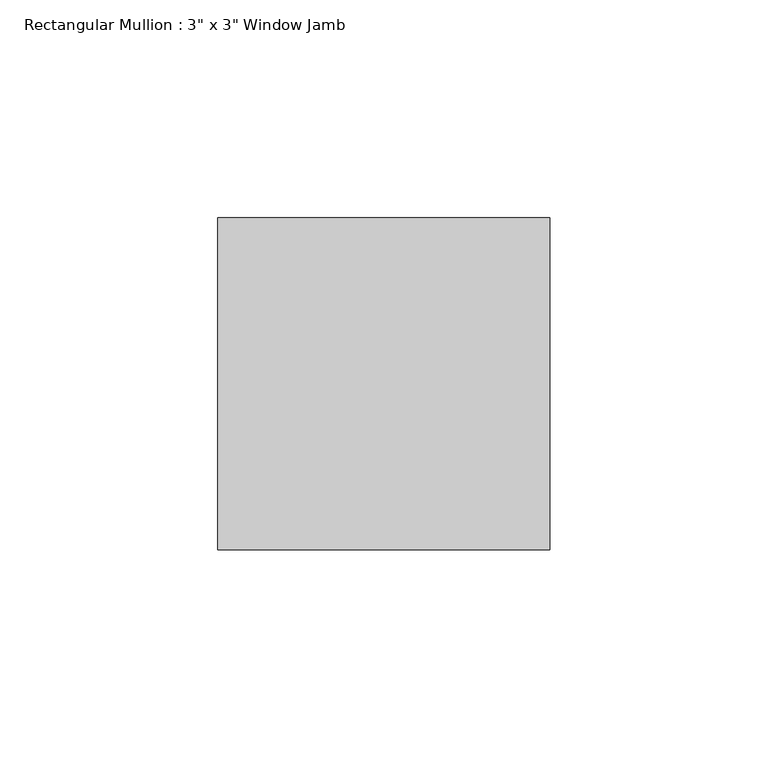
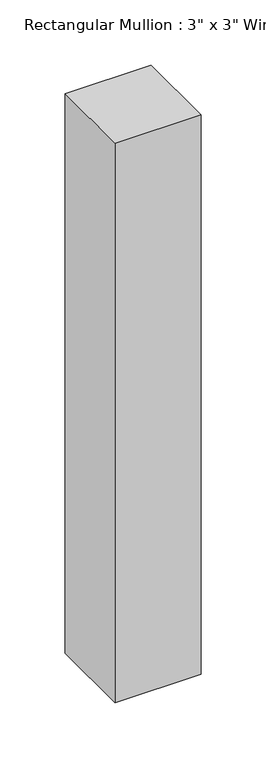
"""IFC4 building model written with IfcOpenShell, lengths in millimetres: member geometry."""

from ifc_helpers import new_model, si_unit, frame, origin, place, context, project, spatial, polyline, outline, extrude, source, transform, mapped, element, save


def member_6e5aab5d(model_context):
    return source(origin(), model_context, "Body", "SweptSolid", [
        extrude(outline(polyline([(0.0, 25.4), (0.0, -50.8), (-76.2, -50.8), (-76.2, 25.4), (0.0, 25.4)])), frame((0.0, 0.0, -523.24), z_axis=(0.0, 0.0, 1.0), x_axis=(1.0, 0.0, 0.0)), (0.0, 0.0, 1.0), 523.24),
    ])


if __name__ == "__main__":
    model = new_model("IFC4")
    model_context = context("Model", 3, world=origin())
    ifc_project = project(units=[si_unit("LENGTHUNIT", "METRE", prefix="MILLI")], contexts=[model_context])
    site = spatial("IfcSite", under=ifc_project)
    building = spatial("IfcBuilding", under=site)
    placement = place(None, origin())
    member_shape = member_6e5aab5d(model_context)
    element("IfcMember", 1, ObjectType="Rectangular Mullion : 3\" x 3\" Window Jamb", at=placement, inside=building, context=model_context, shape_type="MappedRepresentation", body=[
        mapped(member_shape, transform((0.0, 0.0, 0.0), x_axis=(1.0, 0.0, 0.0), y_axis=(0.0, 1.0, 0.0), z_axis=(0.0, 0.0, 1.0))),
    ])
    save(model, "model.ifc")
